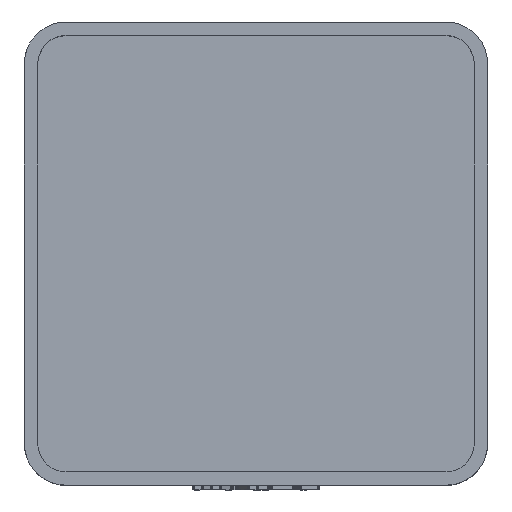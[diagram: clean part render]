
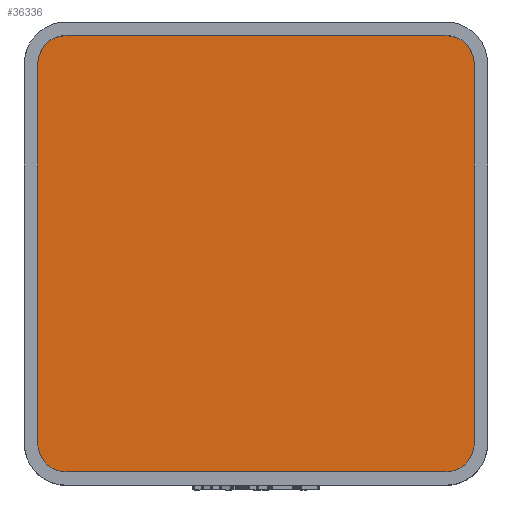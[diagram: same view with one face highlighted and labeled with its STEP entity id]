
A CAD part, top view. The second image highlights one B-rep face of the part: STEP entity #36336.
In plain terms, the highlighted planar face has unit normal (0, 0, 1).
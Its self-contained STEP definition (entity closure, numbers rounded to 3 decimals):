
#1442 = PLANE('',#1443);
#1443 = AXIS2_PLACEMENT_3D('',#1444,#1445,#1446);
#1444 = CARTESIAN_POINT('',(-19.55,-17.,4.75));
#1445 = DIRECTION('',(-1.,0.,0.));
#1446 = DIRECTION('',(0.,1.,0.));
#1474 = CYLINDRICAL_SURFACE('',#1475,2.55);
#1475 = AXIS2_PLACEMENT_3D('',#1476,#1477,#1478);
#1476 = CARTESIAN_POINT('',(-17.,17.,4.75));
#1477 = DIRECTION('',(-0.,-0.,-1.));
#1478 = DIRECTION('',(1.,0.,0.));
#1501 = PLANE('',#1502);
#1502 = AXIS2_PLACEMENT_3D('',#1503,#1504,#1505);
#1503 = CARTESIAN_POINT('',(-17.,19.55,4.75));
#1504 = DIRECTION('',(0.,1.,0.));
#1505 = DIRECTION('',(1.,0.,0.));
#1533 = CYLINDRICAL_SURFACE('',#1534,2.55);
#1534 = AXIS2_PLACEMENT_3D('',#1535,#1536,#1537);
#1535 = CARTESIAN_POINT('',(17.,17.,4.75));
#1536 = DIRECTION('',(-0.,-0.,-1.));
#1537 = DIRECTION('',(1.,0.,0.));
#1560 = PLANE('',#1561);
#1561 = AXIS2_PLACEMENT_3D('',#1562,#1563,#1564);
#1562 = CARTESIAN_POINT('',(19.55,-17.,4.75));
#1563 = DIRECTION('',(-1.,0.,0.));
#1564 = DIRECTION('',(0.,1.,0.));
#1592 = CYLINDRICAL_SURFACE('',#1593,2.55);
#1593 = AXIS2_PLACEMENT_3D('',#1594,#1595,#1596);
#1594 = CARTESIAN_POINT('',(17.,-17.,4.75));
#1595 = DIRECTION('',(-0.,-0.,-1.));
#1596 = DIRECTION('',(1.,0.,0.));
#1619 = PLANE('',#1620);
#1620 = AXIS2_PLACEMENT_3D('',#1621,#1622,#1623);
#1621 = CARTESIAN_POINT('',(-17.,-19.55,4.75));
#1622 = DIRECTION('',(0.,1.,0.));
#1623 = DIRECTION('',(1.,0.,0.));
#1649 = CYLINDRICAL_SURFACE('',#1650,2.55);
#1650 = AXIS2_PLACEMENT_3D('',#1651,#1652,#1653);
#1651 = CARTESIAN_POINT('',(-17.,-17.,4.75));
#1652 = DIRECTION('',(-0.,-0.,-1.));
#1653 = DIRECTION('',(1.,0.,0.));
#13619 = EDGE_CURVE('',#13620,#13622,#13624,.T.);
#13620 = VERTEX_POINT('',#13621);
#13621 = CARTESIAN_POINT('',(-19.55,-17.,4.75));
#13622 = VERTEX_POINT('',#13623);
#13623 = CARTESIAN_POINT('',(-19.55,17.,4.75));
#13624 = SURFACE_CURVE('',#13625,(#13629,#13636),.PCURVE_S1.);
#13625 = LINE('',#13626,#13627);
#13626 = CARTESIAN_POINT('',(-19.55,0.,4.75));
#13627 = VECTOR('',#13628,1.);
#13628 = DIRECTION('',(0.,1.,0.));
#13629 = PCURVE('',#1442,#13630);
#13630 = DEFINITIONAL_REPRESENTATION('',(#13631),#13635);
#13631 = LINE('',#13632,#13633);
#13632 = CARTESIAN_POINT('',(17.,0.));
#13633 = VECTOR('',#13634,1.);
#13634 = DIRECTION('',(1.,0.));
#13635 = ( GEOMETRIC_REPRESENTATION_CONTEXT(2) 
PARAMETRIC_REPRESENTATION_CONTEXT() REPRESENTATION_CONTEXT('2D SPACE',''
  ) );
#13636 = PCURVE('',#13637,#13642);
#13637 = PLANE('',#13638);
#13638 = AXIS2_PLACEMENT_3D('',#13639,#13640,#13641);
#13639 = CARTESIAN_POINT('',(0.,0.,4.75
    ));
#13640 = DIRECTION('',(0.,0.,1.));
#13641 = DIRECTION('',(1.,0.,-0.));
#13642 = DEFINITIONAL_REPRESENTATION('',(#13643),#13647);
#13643 = LINE('',#13644,#13645);
#13644 = CARTESIAN_POINT('',(-19.55,0.));
#13645 = VECTOR('',#13646,1.);
#13646 = DIRECTION('',(0.,1.));
#13647 = ( GEOMETRIC_REPRESENTATION_CONTEXT(2) 
PARAMETRIC_REPRESENTATION_CONTEXT() REPRESENTATION_CONTEXT('2D SPACE',''
  ) );
#13695 = EDGE_CURVE('',#13620,#13696,#13698,.T.);
#13696 = VERTEX_POINT('',#13697);
#13697 = CARTESIAN_POINT('',(-17.,-19.55,4.75));
#13698 = SURFACE_CURVE('',#13699,(#13704,#13711),.PCURVE_S1.);
#13699 = CIRCLE('',#13700,2.55);
#13700 = AXIS2_PLACEMENT_3D('',#13701,#13702,#13703);
#13701 = CARTESIAN_POINT('',(-17.,-17.,4.75));
#13702 = DIRECTION('',(0.,0.,1.));
#13703 = DIRECTION('',(1.,0.,0.));
#13704 = PCURVE('',#1649,#13705);
#13705 = DEFINITIONAL_REPRESENTATION('',(#13706),#13710);
#13706 = LINE('',#13707,#13708);
#13707 = CARTESIAN_POINT('',(-0.,0.));
#13708 = VECTOR('',#13709,1.);
#13709 = DIRECTION('',(-1.,0.));
#13710 = ( GEOMETRIC_REPRESENTATION_CONTEXT(2) 
PARAMETRIC_REPRESENTATION_CONTEXT() REPRESENTATION_CONTEXT('2D SPACE',''
  ) );
#13711 = PCURVE('',#13637,#13712);
#13712 = DEFINITIONAL_REPRESENTATION('',(#13713),#13717);
#13713 = CIRCLE('',#13714,2.55);
#13714 = AXIS2_PLACEMENT_2D('',#13715,#13716);
#13715 = CARTESIAN_POINT('',(-17.,-17.));
#13716 = DIRECTION('',(1.,0.));
#13717 = ( GEOMETRIC_REPRESENTATION_CONTEXT(2) 
PARAMETRIC_REPRESENTATION_CONTEXT() REPRESENTATION_CONTEXT('2D SPACE',''
  ) );
#13745 = EDGE_CURVE('',#13696,#13746,#13748,.T.);
#13746 = VERTEX_POINT('',#13747);
#13747 = CARTESIAN_POINT('',(17.,-19.55,4.75));
#13748 = SURFACE_CURVE('',#13749,(#13753,#13760),.PCURVE_S1.);
#13749 = LINE('',#13750,#13751);
#13750 = CARTESIAN_POINT('',(0.,-19.55,4.75));
#13751 = VECTOR('',#13752,1.);
#13752 = DIRECTION('',(1.,0.,0.));
#13753 = PCURVE('',#1619,#13754);
#13754 = DEFINITIONAL_REPRESENTATION('',(#13755),#13759);
#13755 = LINE('',#13756,#13757);
#13756 = CARTESIAN_POINT('',(17.,0.));
#13757 = VECTOR('',#13758,1.);
#13758 = DIRECTION('',(1.,0.));
#13759 = ( GEOMETRIC_REPRESENTATION_CONTEXT(2) 
PARAMETRIC_REPRESENTATION_CONTEXT() REPRESENTATION_CONTEXT('2D SPACE',''
  ) );
#13760 = PCURVE('',#13637,#13761);
#13761 = DEFINITIONAL_REPRESENTATION('',(#13762),#13766);
#13762 = LINE('',#13763,#13764);
#13763 = CARTESIAN_POINT('',(0.,-19.55));
#13764 = VECTOR('',#13765,1.);
#13765 = DIRECTION('',(1.,0.));
#13766 = ( GEOMETRIC_REPRESENTATION_CONTEXT(2) 
PARAMETRIC_REPRESENTATION_CONTEXT() REPRESENTATION_CONTEXT('2D SPACE',''
  ) );
#13794 = EDGE_CURVE('',#13746,#13795,#13797,.T.);
#13795 = VERTEX_POINT('',#13796);
#13796 = CARTESIAN_POINT('',(19.55,-17.,4.75));
#13797 = SURFACE_CURVE('',#13798,(#13803,#13810),.PCURVE_S1.);
#13798 = CIRCLE('',#13799,2.55);
#13799 = AXIS2_PLACEMENT_3D('',#13800,#13801,#13802);
#13800 = CARTESIAN_POINT('',(17.,-17.,4.75));
#13801 = DIRECTION('',(0.,0.,1.));
#13802 = DIRECTION('',(1.,0.,0.));
#13803 = PCURVE('',#1592,#13804);
#13804 = DEFINITIONAL_REPRESENTATION('',(#13805),#13809);
#13805 = LINE('',#13806,#13807);
#13806 = CARTESIAN_POINT('',(-0.,0.));
#13807 = VECTOR('',#13808,1.);
#13808 = DIRECTION('',(-1.,0.));
#13809 = ( GEOMETRIC_REPRESENTATION_CONTEXT(2) 
PARAMETRIC_REPRESENTATION_CONTEXT() REPRESENTATION_CONTEXT('2D SPACE',''
  ) );
#13810 = PCURVE('',#13637,#13811);
#13811 = DEFINITIONAL_REPRESENTATION('',(#13812),#13816);
#13812 = CIRCLE('',#13813,2.55);
#13813 = AXIS2_PLACEMENT_2D('',#13814,#13815);
#13814 = CARTESIAN_POINT('',(17.,-17.));
#13815 = DIRECTION('',(1.,0.));
#13816 = ( GEOMETRIC_REPRESENTATION_CONTEXT(2) 
PARAMETRIC_REPRESENTATION_CONTEXT() REPRESENTATION_CONTEXT('2D SPACE',''
  ) );
#13844 = EDGE_CURVE('',#13795,#13845,#13847,.T.);
#13845 = VERTEX_POINT('',#13846);
#13846 = CARTESIAN_POINT('',(19.55,17.,4.75));
#13847 = SURFACE_CURVE('',#13848,(#13852,#13859),.PCURVE_S1.);
#13848 = LINE('',#13849,#13850);
#13849 = CARTESIAN_POINT('',(19.55,0.,4.75));
#13850 = VECTOR('',#13851,1.);
#13851 = DIRECTION('',(0.,1.,0.));
#13852 = PCURVE('',#1560,#13853);
#13853 = DEFINITIONAL_REPRESENTATION('',(#13854),#13858);
#13854 = LINE('',#13855,#13856);
#13855 = CARTESIAN_POINT('',(17.,0.));
#13856 = VECTOR('',#13857,1.);
#13857 = DIRECTION('',(1.,0.));
#13858 = ( GEOMETRIC_REPRESENTATION_CONTEXT(2) 
PARAMETRIC_REPRESENTATION_CONTEXT() REPRESENTATION_CONTEXT('2D SPACE',''
  ) );
#13859 = PCURVE('',#13637,#13860);
#13860 = DEFINITIONAL_REPRESENTATION('',(#13861),#13865);
#13861 = LINE('',#13862,#13863);
#13862 = CARTESIAN_POINT('',(19.55,0.));
#13863 = VECTOR('',#13864,1.);
#13864 = DIRECTION('',(0.,1.));
#13865 = ( GEOMETRIC_REPRESENTATION_CONTEXT(2) 
PARAMETRIC_REPRESENTATION_CONTEXT() REPRESENTATION_CONTEXT('2D SPACE',''
  ) );
#13893 = EDGE_CURVE('',#13845,#13894,#13896,.T.);
#13894 = VERTEX_POINT('',#13895);
#13895 = CARTESIAN_POINT('',(17.,19.55,4.75));
#13896 = SURFACE_CURVE('',#13897,(#13902,#13909),.PCURVE_S1.);
#13897 = CIRCLE('',#13898,2.55);
#13898 = AXIS2_PLACEMENT_3D('',#13899,#13900,#13901);
#13899 = CARTESIAN_POINT('',(17.,17.,4.75));
#13900 = DIRECTION('',(0.,0.,1.));
#13901 = DIRECTION('',(1.,0.,0.));
#13902 = PCURVE('',#1533,#13903);
#13903 = DEFINITIONAL_REPRESENTATION('',(#13904),#13908);
#13904 = LINE('',#13905,#13906);
#13905 = CARTESIAN_POINT('',(-0.,0.));
#13906 = VECTOR('',#13907,1.);
#13907 = DIRECTION('',(-1.,0.));
#13908 = ( GEOMETRIC_REPRESENTATION_CONTEXT(2) 
PARAMETRIC_REPRESENTATION_CONTEXT() REPRESENTATION_CONTEXT('2D SPACE',''
  ) );
#13909 = PCURVE('',#13637,#13910);
#13910 = DEFINITIONAL_REPRESENTATION('',(#13911),#13915);
#13911 = CIRCLE('',#13912,2.55);
#13912 = AXIS2_PLACEMENT_2D('',#13913,#13914);
#13913 = CARTESIAN_POINT('',(17.,17.));
#13914 = DIRECTION('',(1.,0.));
#13915 = ( GEOMETRIC_REPRESENTATION_CONTEXT(2) 
PARAMETRIC_REPRESENTATION_CONTEXT() REPRESENTATION_CONTEXT('2D SPACE',''
  ) );
#13943 = EDGE_CURVE('',#13944,#13894,#13946,.T.);
#13944 = VERTEX_POINT('',#13945);
#13945 = CARTESIAN_POINT('',(-17.,19.55,4.75));
#13946 = SURFACE_CURVE('',#13947,(#13951,#13958),.PCURVE_S1.);
#13947 = LINE('',#13948,#13949);
#13948 = CARTESIAN_POINT('',(0.,19.55,4.75));
#13949 = VECTOR('',#13950,1.);
#13950 = DIRECTION('',(1.,0.,0.));
#13951 = PCURVE('',#1501,#13952);
#13952 = DEFINITIONAL_REPRESENTATION('',(#13953),#13957);
#13953 = LINE('',#13954,#13955);
#13954 = CARTESIAN_POINT('',(17.,0.));
#13955 = VECTOR('',#13956,1.);
#13956 = DIRECTION('',(1.,0.));
#13957 = ( GEOMETRIC_REPRESENTATION_CONTEXT(2) 
PARAMETRIC_REPRESENTATION_CONTEXT() REPRESENTATION_CONTEXT('2D SPACE',''
  ) );
#13958 = PCURVE('',#13637,#13959);
#13959 = DEFINITIONAL_REPRESENTATION('',(#13960),#13964);
#13960 = LINE('',#13961,#13962);
#13961 = CARTESIAN_POINT('',(0.,19.55));
#13962 = VECTOR('',#13963,1.);
#13963 = DIRECTION('',(1.,0.));
#13964 = ( GEOMETRIC_REPRESENTATION_CONTEXT(2) 
PARAMETRIC_REPRESENTATION_CONTEXT() REPRESENTATION_CONTEXT('2D SPACE',''
  ) );
#13992 = EDGE_CURVE('',#13944,#13622,#13993,.T.);
#13993 = SURFACE_CURVE('',#13994,(#13999,#14006),.PCURVE_S1.);
#13994 = CIRCLE('',#13995,2.55);
#13995 = AXIS2_PLACEMENT_3D('',#13996,#13997,#13998);
#13996 = CARTESIAN_POINT('',(-17.,17.,4.75));
#13997 = DIRECTION('',(0.,0.,1.));
#13998 = DIRECTION('',(1.,0.,0.));
#13999 = PCURVE('',#1474,#14000);
#14000 = DEFINITIONAL_REPRESENTATION('',(#14001),#14005);
#14001 = LINE('',#14002,#14003);
#14002 = CARTESIAN_POINT('',(-0.,0.));
#14003 = VECTOR('',#14004,1.);
#14004 = DIRECTION('',(-1.,0.));
#14005 = ( GEOMETRIC_REPRESENTATION_CONTEXT(2) 
PARAMETRIC_REPRESENTATION_CONTEXT() REPRESENTATION_CONTEXT('2D SPACE',''
  ) );
#14006 = PCURVE('',#13637,#14007);
#14007 = DEFINITIONAL_REPRESENTATION('',(#14008),#14012);
#14008 = CIRCLE('',#14009,2.55);
#14009 = AXIS2_PLACEMENT_2D('',#14010,#14011);
#14010 = CARTESIAN_POINT('',(-17.,17.));
#14011 = DIRECTION('',(1.,0.));
#14012 = ( GEOMETRIC_REPRESENTATION_CONTEXT(2) 
PARAMETRIC_REPRESENTATION_CONTEXT() REPRESENTATION_CONTEXT('2D SPACE',''
  ) );
#36336 = ADVANCED_FACE('',(#36337),#13637,.T.);
#36337 = FACE_BOUND('',#36338,.T.);
#36338 = EDGE_LOOP('',(#36339,#36340,#36341,#36342,#36343,#36344,#36345,
    #36346));
#36339 = ORIENTED_EDGE('',*,*,#13619,.F.);
#36340 = ORIENTED_EDGE('',*,*,#13695,.T.);
#36341 = ORIENTED_EDGE('',*,*,#13745,.T.);
#36342 = ORIENTED_EDGE('',*,*,#13794,.T.);
#36343 = ORIENTED_EDGE('',*,*,#13844,.T.);
#36344 = ORIENTED_EDGE('',*,*,#13893,.T.);
#36345 = ORIENTED_EDGE('',*,*,#13943,.F.);
#36346 = ORIENTED_EDGE('',*,*,#13992,.T.);
